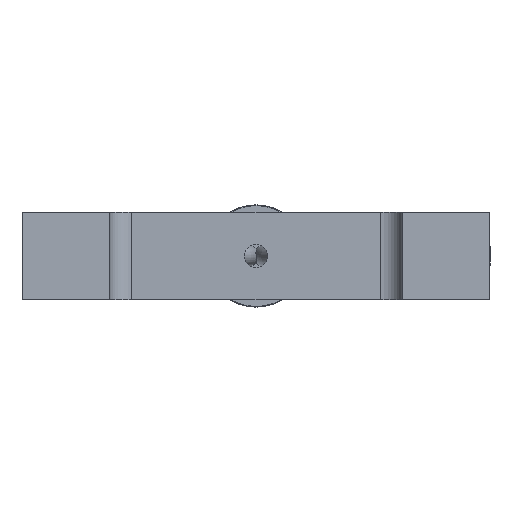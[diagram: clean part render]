
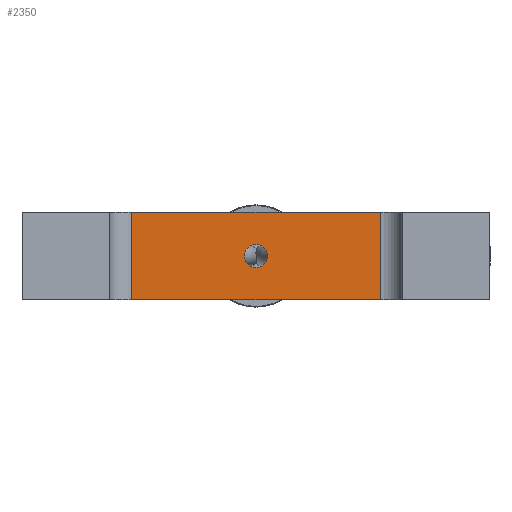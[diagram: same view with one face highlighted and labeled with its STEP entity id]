
A CAD part, left-side view. The second image highlights one B-rep face of the part: STEP entity #2350.
In plain terms, the highlighted planar face has unit normal (-1, 0, 0).
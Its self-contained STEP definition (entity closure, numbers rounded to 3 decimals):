
#112=LINE($,#4257,#200);
#114=LINE($,#4263,#202);
#115=LINE($,#4265,#203);
#116=LINE($,#4266,#204);
#200=VECTOR($,#3333,12.);
#202=VECTOR($,#3339,34.);
#203=VECTOR($,#3340,12.);
#204=VECTOR($,#3341,34.);
#307=PLANE($,#2666);
#402=FACE_BOUND($,#790,.T.);
#403=FACE_BOUND($,#791,.T.);
#790=EDGE_LOOP($,(#1908));
#791=EDGE_LOOP($,(#1909,#1910,#1911,#1912));
#958=CIRCLE($,#2655,1.6);
#1146=VERTEX_POINT($,#4238);
#1153=VERTEX_POINT($,#4254);
#1154=VERTEX_POINT($,#4256);
#1156=VERTEX_POINT($,#4262);
#1157=VERTEX_POINT($,#4264);
#1404=EDGE_CURVE($,#1146,#1146,#958,.T.);
#1411=EDGE_CURVE($,#1153,#1154,#112,.T.);
#1414=EDGE_CURVE($,#1153,#1156,#114,.T.);
#1415=EDGE_CURVE($,#1157,#1156,#115,.T.);
#1416=EDGE_CURVE($,#1157,#1154,#116,.T.);
#1908=ORIENTED_EDGE($,*,*,#1404,.T.);
#1909=ORIENTED_EDGE($,*,*,#1411,.F.);
#1910=ORIENTED_EDGE($,*,*,#1414,.T.);
#1911=ORIENTED_EDGE($,*,*,#1415,.F.);
#1912=ORIENTED_EDGE($,*,*,#1416,.T.);
#2350=ADVANCED_FACE($,(#402,#403),#307,.T.);
#2655=AXIS2_PLACEMENT_3D($,#4239,#3313,#3314);
#2666=AXIS2_PLACEMENT_3D($,#4261,#3337,#3338);
#3313=DIRECTION('center_axis',(1.,0.,0.));
#3314=DIRECTION('ref_axis',(0.,0.,-1.));
#3333=DIRECTION($,(0.,0.,1.));
#3337=DIRECTION('center_axis',(-1.,0.,0.));
#3338=DIRECTION('ref_axis',(0.,0.,1.));
#3339=DIRECTION($,(0.,-1.,0.));
#3340=DIRECTION($,(0.,0.,-1.));
#3341=DIRECTION($,(0.,1.,0.));
#4238=CARTESIAN_POINT('',(22.,0.,7.6));
#4239=CARTESIAN_POINT('Origin',(22.,0.,6.));
#4254=CARTESIAN_POINT('',(22.,17.,0.));
#4256=CARTESIAN_POINT('',(22.,17.,12.));
#4257=CARTESIAN_POINT($,(22.,17.,0.));
#4261=CARTESIAN_POINT('Origin',(22.,-20.,0.));
#4262=CARTESIAN_POINT('',(22.,-17.,0.));
#4263=CARTESIAN_POINT($,(22.,20.,0.));
#4264=CARTESIAN_POINT('',(22.,-17.,12.));
#4265=CARTESIAN_POINT($,(22.,-17.,0.));
#4266=CARTESIAN_POINT($,(22.,20.,12.));
